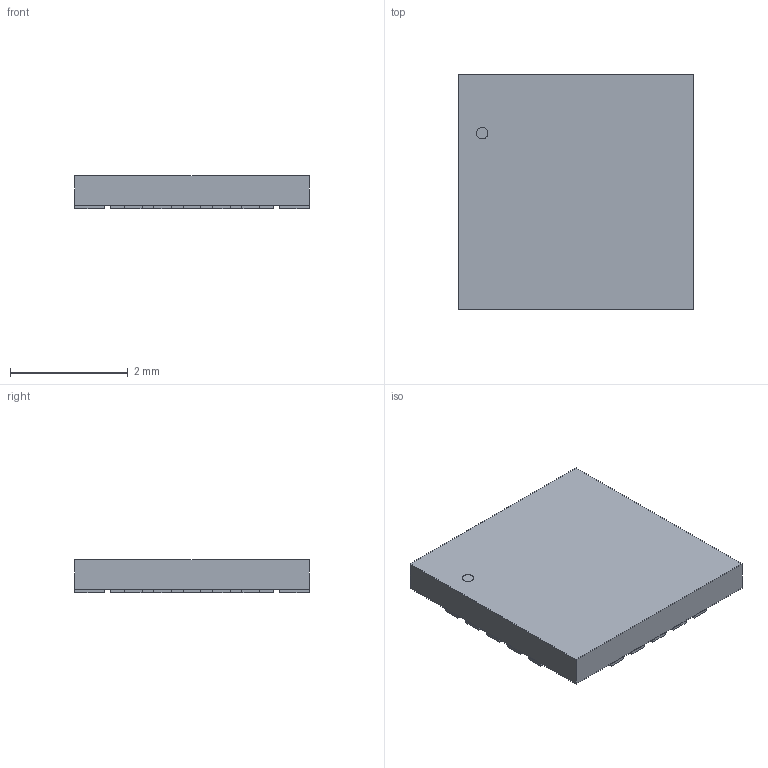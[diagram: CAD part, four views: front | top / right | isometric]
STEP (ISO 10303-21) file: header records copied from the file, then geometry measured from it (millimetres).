
FILE_DESCRIPTION(('STEP AP214'),'1');
FILE_NAME('UQFN20_GZ_MCH','2021-06-05T20:07:18',(''),(''),'','','');
FILE_SCHEMA(('AUTOMOTIVE_DESIGN'));
Length unit declared in the file: millimetre
Products named in the file (1): product
Bounding box: 3.99 x 3.99 x 0.56 mm (x, y, z)
Volume: 8.6 mm3; surface area: 63.7 mm2
Topology: 23 solids, 23 shells, 135 faces, 267 edges, 178 vertices
Faces by surface type: plane 134, cylinder 1
Full cylindrical faces by diameter (mm): 0.199 x1
Entity records: 3280 total; most frequent: DIRECTION 542, ORIENTED_EDGE 532, CARTESIAN_POINT 317, EDGE_CURVE 266, LINE 264, VECTOR 264, VERTEX_POINT 178, AXIS2_PLACEMENT_3D 139
